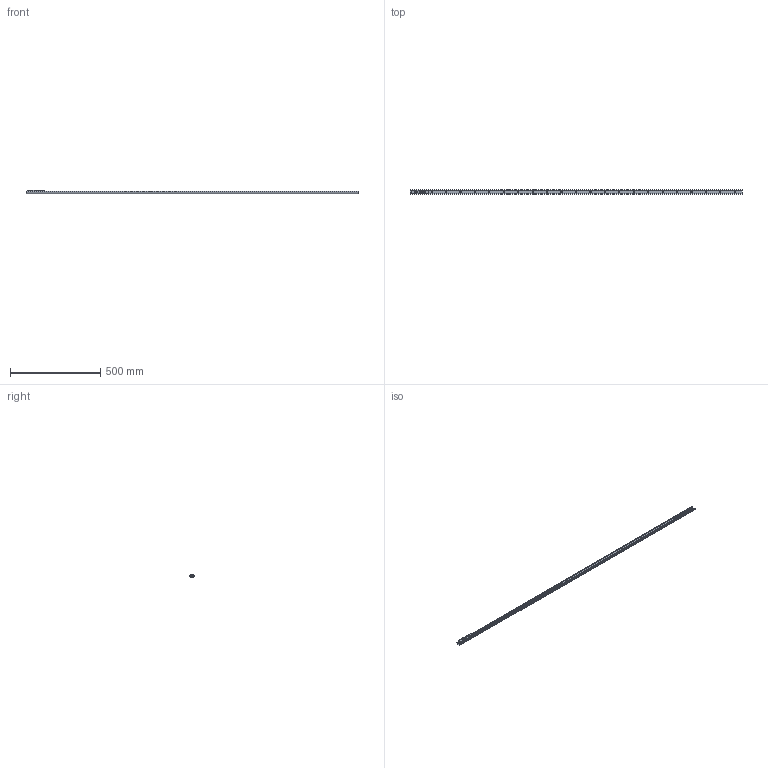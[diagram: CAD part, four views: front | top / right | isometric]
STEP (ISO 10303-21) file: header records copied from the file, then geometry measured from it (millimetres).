
FILE_DESCRIPTION( ( 'STEP AP214' ), '1' );
FILE_NAME( 'p:/temp/worker_25/temp/exporttempdir_2808_173_aK9yK/format_0/TEN26-1840-CEN26-92.stp', '2020-05-08T18:51:44', ( 'License CC BY-ND 4.0' ), ( 'CADENAS' ), ' ', 'PARTsolutions', ' ' );
FILE_SCHEMA( ( 'AUTOMOTIVE_DESIGN { 1 0 10303 214 1 1 1 1 }' ) );
Length unit declared in the file: millimetre
Products named in the file (6): TEN26-1840-CEN26-92; _TEN 26-1840; _CEN26-92_1; _RLN26(11.2_M5); _RLA26(11.2_M5); _LAN-26
Assembly tree (8 placements, depth 2):
  TEN26-1840-CEN26-92
    _TEN 26-1840
    _CEN26-92_1
    _RLN26(11.2_M5)  x2
    _RLA26(11.2_M5)
    _LAN-26  x3
Bounding box: 1840 x 26 x 22 mm (x, y, z)
Volume: 203438.1 mm3; surface area: 171781.4 mm2
Topology: 8 solids, 8 shells, 256 faces, 570 edges, 357 vertices
Faces by surface type: plane 131, cylinder 92, cone 24, bspline 9
Full cylindrical faces by diameter (mm): 2.5 x2, 4.134 x5, 4.5 x3, 5 x6, 6.5 x23, 9.3 x3, 11.2 x6, 11.6 x6, 15.7 x6, 16.7 x6
Entity records: 6224 total; most frequent: CARTESIAN_POINT 900, DIRECTION 850, ORIENTED_EDGE 626, AXIS2_PLACEMENT_3D 361, EDGE_LOOP 324, EDGE_CURVE 313, VERTEX_POINT 243, FACE_OUTER_BOUND 230
